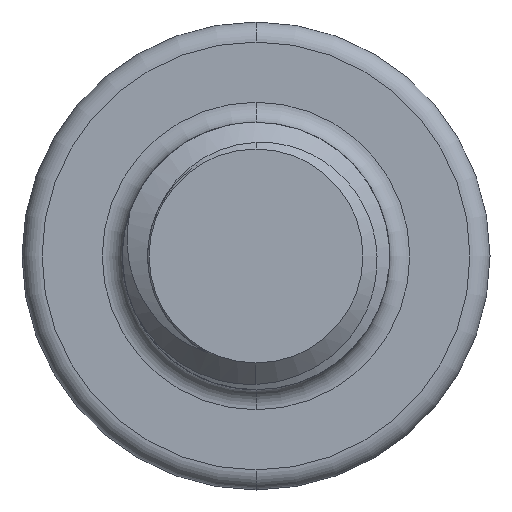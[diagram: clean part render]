
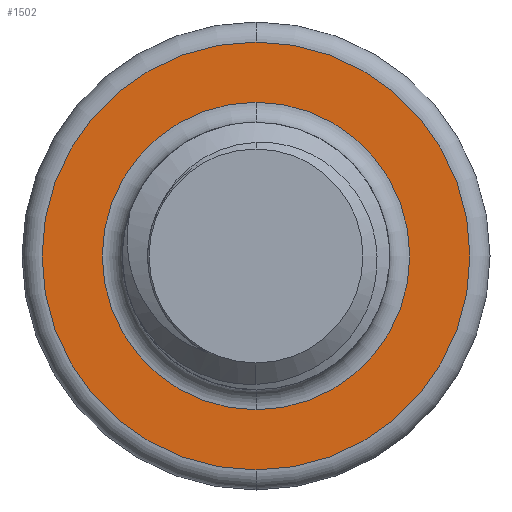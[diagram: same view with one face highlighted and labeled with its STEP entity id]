
A CAD part, front view. The second image highlights one B-rep face of the part: STEP entity #1502.
In plain terms, the highlighted planar face has unit normal (0, -1, 0).
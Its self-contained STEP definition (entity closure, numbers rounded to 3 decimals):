
#22 = FACE_OUTER_BOUND ( 'NONE', #2789, .T. ) ;
#24 = AXIS2_PLACEMENT_3D ( 'NONE', #2213, #3306, #850 ) ;
#179 = CARTESIAN_POINT ( 'NONE',  ( 0., 10., -2.3 ) ) ;
#230 = ORIENTED_EDGE ( 'NONE', *, *, #1950, .T. ) ;
#326 = CARTESIAN_POINT ( 'NONE',  ( 0., 10., 0. ) ) ;
#383 = CIRCLE ( 'NONE', #2413, 3.2 ) ;
#627 = VERTEX_POINT ( 'NONE', #2764 ) ;
#659 = DIRECTION ( 'NONE',  ( 0., -1., 0. ) ) ;
#671 = CARTESIAN_POINT ( 'NONE',  ( 0., 10., 0. ) ) ;
#781 = EDGE_CURVE ( 'NONE', #627, #1475, #3336, .T. ) ;
#829 = ORIENTED_EDGE ( 'NONE', *, *, #3490, .T. ) ;
#850 = DIRECTION ( 'NONE',  ( 0., 0., -1. ) ) ;
#1050 = CIRCLE ( 'NONE', #3052, 2.3 ) ;
#1076 = DIRECTION ( 'NONE',  ( 0., 1., 0. ) ) ;
#1118 = PLANE ( 'NONE',  #24 ) ;
#1163 = AXIS2_PLACEMENT_3D ( 'NONE', #671, #1770, #2860 ) ;
#1392 = AXIS2_PLACEMENT_3D ( 'NONE', #3121, #659, #1758 ) ;
#1424 = ORIENTED_EDGE ( 'NONE', *, *, #2157, .T. ) ;
#1441 = VERTEX_POINT ( 'NONE', #1917 ) ;
#1466 = EDGE_LOOP ( 'NONE', ( #1424, #230 ) ) ;
#1475 = VERTEX_POINT ( 'NONE', #3018 ) ;
#1502 = ADVANCED_FACE ( 'NONE', ( #2485, #22 ), #1118, .T. ) ;
#1758 = DIRECTION ( 'NONE',  ( 0., 0., -1. ) ) ;
#1763 = ORIENTED_EDGE ( 'NONE', *, *, #781, .T. ) ;
#1770 = DIRECTION ( 'NONE',  ( 0., 1., 0. ) ) ;
#1917 = CARTESIAN_POINT ( 'NONE',  ( 0., 10., 2.3 ) ) ;
#1950 = EDGE_CURVE ( 'NONE', #1441, #2284, #1050, .T. ) ;
#2157 = EDGE_CURVE ( 'NONE', #2284, #1441, #2715, .T. ) ;
#2172 = DIRECTION ( 'NONE',  ( 0., 0., -1. ) ) ;
#2213 = CARTESIAN_POINT ( 'NONE',  ( 0., 10., -3.5 ) ) ;
#2243 = DIRECTION ( 'NONE',  ( 0., -1., 0. ) ) ;
#2284 = VERTEX_POINT ( 'NONE', #179 ) ;
#2413 = AXIS2_PLACEMENT_3D ( 'NONE', #326, #2243, #3340 ) ;
#2485 = FACE_BOUND ( 'NONE', #1466, .T. ) ;
#2715 = CIRCLE ( 'NONE', #1163, 2.3 ) ;
#2764 = CARTESIAN_POINT ( 'NONE',  ( 0., 10., 3.2 ) ) ;
#2789 = EDGE_LOOP ( 'NONE', ( #829, #1763 ) ) ;
#2860 = DIRECTION ( 'NONE',  ( 0., 0., -1. ) ) ;
#3018 = CARTESIAN_POINT ( 'NONE',  ( 0., 10., -3.2 ) ) ;
#3052 = AXIS2_PLACEMENT_3D ( 'NONE', #3534, #1076, #2172 ) ;
#3121 = CARTESIAN_POINT ( 'NONE',  ( 0., 10., 0. ) ) ;
#3306 = DIRECTION ( 'NONE',  ( 0., -1., 0. ) ) ;
#3336 = CIRCLE ( 'NONE', #1392, 3.2 ) ;
#3340 = DIRECTION ( 'NONE',  ( 0., 0., -1. ) ) ;
#3490 = EDGE_CURVE ( 'NONE', #1475, #627, #383, .T. ) ;
#3534 = CARTESIAN_POINT ( 'NONE',  ( 0., 10., 0. ) ) ;
